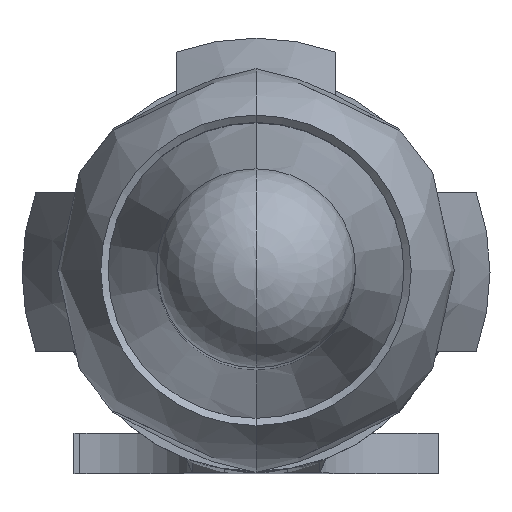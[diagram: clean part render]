
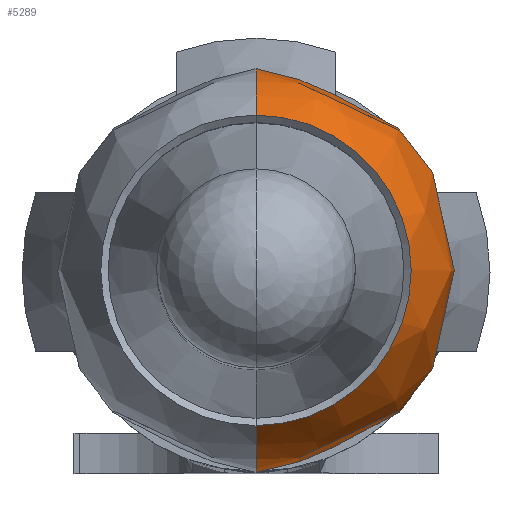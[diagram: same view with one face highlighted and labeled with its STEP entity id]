
A CAD part, top view. The second image highlights one B-rep face of the part: STEP entity #5289.
In plain terms, the highlighted free-form (B-spline) face has degree [3, 3] with [7, 4] control points.
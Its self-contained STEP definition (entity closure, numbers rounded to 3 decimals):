
#1783=CARTESIAN_POINT('',(0.,0.,-12.337));
#1784=DIRECTION('',(0.,0.,-1.));
#1785=DIRECTION('',(0.,1.,0.));
#1786=AXIS2_PLACEMENT_3D('',#1783,#1784,#1785);
#1788=CARTESIAN_POINT('',(0.,-0.229,-11.323));
#1789=DIRECTION('',(1.,0.,0.));
#1790=DIRECTION('',(0.,0.834,-0.551));
#1791=AXIS2_PLACEMENT_3D('',#1788,#1789,#1790);
#1793=CARTESIAN_POINT('',(0.,0.229,-11.323));
#1794=DIRECTION('',(-1.,0.,0.));
#1795=DIRECTION('',(0.,-0.834,-0.551));
#1796=AXIS2_PLACEMENT_3D('',#1793,#1794,#1795);
#1816=CARTESIAN_POINT('',(0.,0.,-10.211));
#1817=DIRECTION('',(0.,0.,-1.));
#1818=DIRECTION('',(0.,1.,0.));
#1819=AXIS2_PLACEMENT_3D('',#1816,#1817,#1818);
#1886=CARTESIAN_POINT('',(0.,1.308,-12.337));
#1888=VERTEX_POINT('',#1886);
#1889=CARTESIAN_POINT('',(0.,1.239,-10.211));
#1890=VERTEX_POINT('',#1889);
#1895=CARTESIAN_POINT('',(0.,-1.308,-12.337));
#1896=CARTESIAN_POINT('',(0.,-1.239,-10.211));
#1897=VERTEX_POINT('',#1895);
#1898=VERTEX_POINT('',#1896);
#5251=CARTESIAN_POINT('',(-0.076,1.209,
-10.175));
#5252=CARTESIAN_POINT('',(-0.109,1.735,
-10.836));
#5253=CARTESIAN_POINT('',(-0.111,1.762,
-11.681));
#5254=CARTESIAN_POINT('',(-0.081,1.28,
-12.375));
#5255=CARTESIAN_POINT('',(0.668,1.256,
-10.175));
#5256=CARTESIAN_POINT('',(0.959,1.802,
-10.836));
#5257=CARTESIAN_POINT('',(0.974,1.83,
-11.681));
#5258=CARTESIAN_POINT('',(0.707,1.33,
-12.375));
#5259=CARTESIAN_POINT('',(1.212,0.746,
-10.175));
#5260=CARTESIAN_POINT('',(1.738,1.07,-10.836));
#5261=CARTESIAN_POINT('',(1.766,1.087,-11.681));
#5262=CARTESIAN_POINT('',(1.283,0.789,-12.375));
#5263=CARTESIAN_POINT('',(1.212,0.,-10.175));
#5264=CARTESIAN_POINT('',(1.738,0.,-10.836));
#5265=CARTESIAN_POINT('',(1.766,0.,-11.681));
#5266=CARTESIAN_POINT('',(1.283,0.,-12.375));
#5267=CARTESIAN_POINT('',(1.212,-0.746,
-10.175));
#5268=CARTESIAN_POINT('',(1.738,-1.07,
-10.836));
#5269=CARTESIAN_POINT('',(1.766,-1.087,
-11.681));
#5270=CARTESIAN_POINT('',(1.283,-0.789,-12.375));
#5271=CARTESIAN_POINT('',(0.668,-1.256,
-10.175));
#5272=CARTESIAN_POINT('',(0.959,-1.802,
-10.836));
#5273=CARTESIAN_POINT('',(0.974,-1.83,
-11.681));
#5274=CARTESIAN_POINT('',(0.707,-1.33,
-12.375));
#5275=CARTESIAN_POINT('',(-0.076,-1.209,
-10.175));
#5276=CARTESIAN_POINT('',(-0.109,-1.735,
-10.836));
#5277=CARTESIAN_POINT('',(-0.111,-1.762,
-11.681));
#5278=CARTESIAN_POINT('',(-0.081,-1.28,
-12.375));
#5279=(BOUNDED_SURFACE()B_SPLINE_SURFACE(3,3,((#5251,#5252,#5253,#5254),(#5255,
#5256,#5257,#5258),(#5259,#5260,#5261,#5262),(#5263,#5264,#5265,#5266),(#5267,
#5268,#5269,#5270),(#5271,#5272,#5273,#5274),(#5275,#5276,#5277,#5278)),
.UNSPECIFIED.,.F.,.F.,.F.)B_SPLINE_SURFACE_WITH_KNOTS((4,3,4),(4,4),(0.,1.,
2.),(0.,1.),.UNSPECIFIED.)GEOMETRIC_REPRESENTATION_ITEM()RATIONAL_B_SPLINE_SURFACE(((1.318,1.144,1.144,1.318),(
1.041,0.903,0.903,1.041),(
1.041,0.903,0.903,1.041),(
1.318,1.144,1.144,1.318),(
1.041,0.903,0.903,1.041),(
1.041,0.903,0.903,1.041),(
1.318,1.144,1.144,1.318)))REPRESENTATION_ITEM('')SURFACE());
#5281=ORIENTED_EDGE('',*,*,#5280,.F.);
#5282=ORIENTED_EDGE('',*,*,#5244,.T.);
#5284=ORIENTED_EDGE('',*,*,#5283,.T.);
#5286=ORIENTED_EDGE('',*,*,#5285,.F.);
#5287=EDGE_LOOP('',(#5281,#5282,#5284,#5286));
#5288=FACE_OUTER_BOUND('',#5287,.F.);
#5289=ADVANCED_FACE('',(#5288),#5279,.T.);
#1787=CIRCLE('',#1786,1.308);
#1792=CIRCLE('',#1791,1.842);
#1797=CIRCLE('',#1796,1.842);
#1820=CIRCLE('',#1819,1.239);
#5244=EDGE_CURVE('',#1888,#1897,#1787,.T.);
#5280=EDGE_CURVE('',#1888,#1890,#1792,.T.);
#5283=EDGE_CURVE('',#1897,#1898,#1797,.T.);
#5285=EDGE_CURVE('',#1890,#1898,#1820,.T.);
